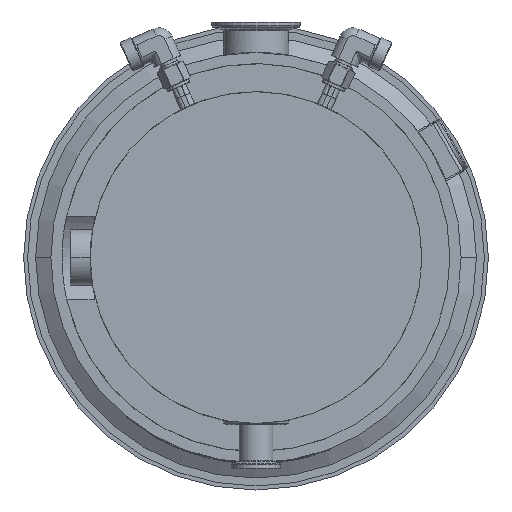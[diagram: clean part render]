
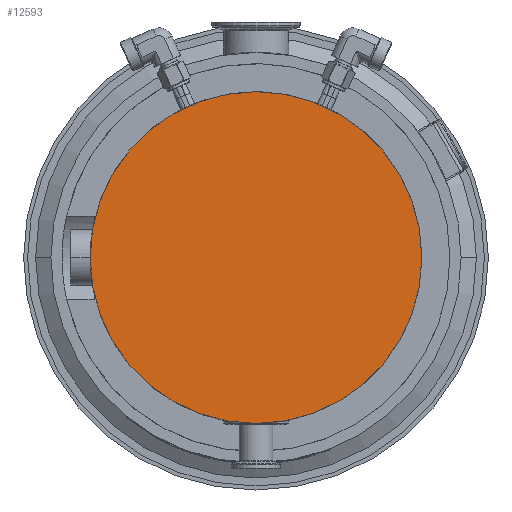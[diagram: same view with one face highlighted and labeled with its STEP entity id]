
A CAD part, front view. The second image highlights one B-rep face of the part: STEP entity #12593.
In plain terms, the highlighted planar face has unit normal (0, -1, 0).
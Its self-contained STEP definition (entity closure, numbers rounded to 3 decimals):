
#3387=CARTESIAN_POINT('',(0.,-7.7,0.));
#3388=DIRECTION('',(0.,1.,0.));
#3389=DIRECTION('',(-1.,0.,0.));
#3390=AXIS2_PLACEMENT_3D('',#3387,#3388,#3389);
#3392=CARTESIAN_POINT('',(0.,-7.7,0.));
#3393=DIRECTION('',(0.,-1.,0.));
#3394=DIRECTION('',(-1.,0.,0.));
#3395=AXIS2_PLACEMENT_3D('',#3392,#3393,#3394);
#7639=CARTESIAN_POINT('',(103.5,-7.7,0.));
#7641=VERTEX_POINT('',#7639);
#7648=CARTESIAN_POINT('',(-103.5,-7.7,0.));
#7649=VERTEX_POINT('',#7648);
#12584=CARTESIAN_POINT('',(0.,-7.7,0.));
#12585=DIRECTION('',(0.,-1.,0.));
#12586=DIRECTION('',(-1.,0.,0.));
#12587=AXIS2_PLACEMENT_3D('',#12584,#12585,#12586);
#12588=PLANE('',#12587);
#12589=ORIENTED_EDGE('',*,*,#11881,.T.);
#12590=ORIENTED_EDGE('',*,*,#12361,.F.);
#12591=EDGE_LOOP('',(#12589,#12590));
#12592=FACE_OUTER_BOUND('',#12591,.F.);
#12593=ADVANCED_FACE('',(#12592),#12588,.T.);
#3391=CIRCLE('',#3390,103.5);
#3396=CIRCLE('',#3395,103.5);
#11881=EDGE_CURVE('',#7649,#7641,#3391,.T.);
#12361=EDGE_CURVE('',#7649,#7641,#3396,.T.);
